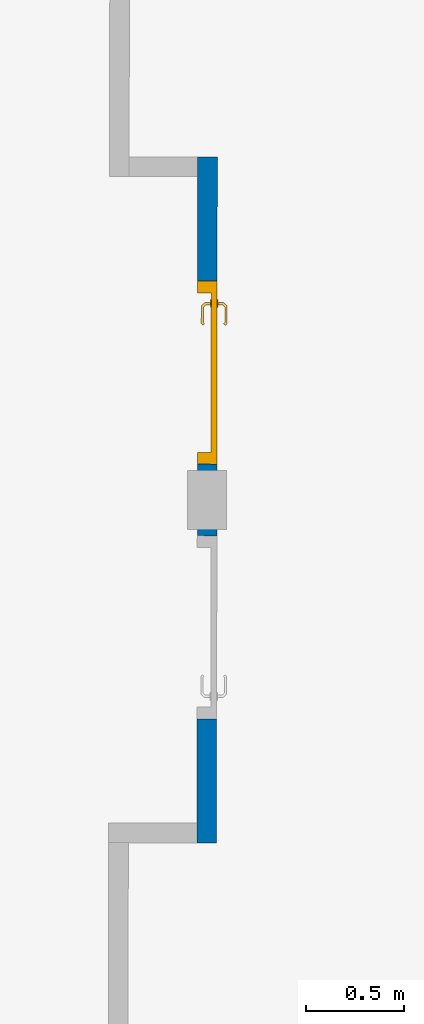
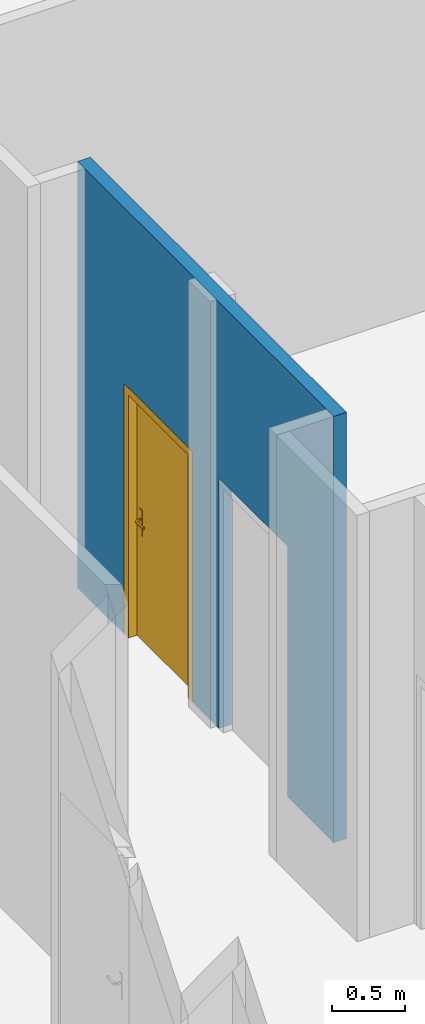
# One storey, part 80 of 101: 1 door, 1 wall, 2 openings.
"""IFC2X3 building model written with IfcOpenShell, lengths in metres."""

from ifc_helpers import new_model, entity, si_unit, converted_unit, derived_unit, direction, frame, frame_2d, origin, place, context, subcontext, project, spatial, rectangle, extrude, faceted_brep, source, transform, mapped, material, material_list, layer, layer_set, layer_usage, type_object, type_shapes, element, fill, save


model = new_model("IFC2X3")

# Units and contexts
model_context = context("Model", 3, precision=1e-05, world=origin(), true_north=direction((6.123233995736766e-17, 1.0)))
body_context = subcontext(model_context, "Body", "Model", "MODEL_VIEW")
ifc_project = project(units=[si_unit("LENGTHUNIT", "METRE"), si_unit("AREAUNIT", "SQUARE_METRE"), converted_unit("PLANEANGLEUNIT", "DEGREE", entity("IfcPlaneAngleMeasure", 0.017453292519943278), si_unit("PLANEANGLEUNIT", "RADIAN"), dimensions=[0, 0, 0, 0, 0, 0, 0]), derived_unit("THERMALTRANSMITTANCEUNIT", [(si_unit("MASSUNIT", "GRAM", prefix="KILO"), 1), (si_unit("THERMODYNAMICTEMPERATUREUNIT", "KELVIN"), -1), (si_unit("TIMEUNIT", "SECOND"), -3)])], contexts=[model_context])

# Site, building, storey
site_placement = place(None, frame((1253.6752467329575, 2072.143113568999, 91.49999999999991), z_axis=(0.0, 0.0, 1.0), x_axis=(0.7237211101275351, 0.6900925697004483, 0.0)))
site = spatial("IfcSite", under=ifc_project, at=site_placement, Name="Surface", CompositionType="ELEMENT")
building_placement = place(site_placement, origin())
building = spatial("IfcBuilding", under=site, at=building_placement, CompositionType="ELEMENT")
storey_placement = place(building_placement, origin())
storey = spatial("IfcBuildingStorey", under=building, at=storey_placement, Name="0- Rdc", CompositionType="ELEMENT", Elevation=-5.764692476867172e-13)

# Wall, openings, door
ifc_material_1 = material(Name="OMD_Béton blanc")
ifc_layer = layer(ifc_material_1, 0.1)
ifc_layer_set = layer_set([ifc_layer], Name="Mur de base:MUR 10")
ifc_layer_usage = layer_usage(ifc_layer_set, "AXIS2", "NEGATIVE", 0.05)
wall_type = type_object("IfcWallType", Name="Mur de base:MUR 10", PredefinedType="STANDARD", material=ifc_layer_set)
wall_placement = place(storey_placement, frame((186.27578160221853, -14.330634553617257, 0.0), z_axis=(0.0, 0.0, 1.0), x_axis=(0.6909838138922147, 0.7228702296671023, 0.0)))
wall = element("IfcWallStandardCase", 1, at=wall_placement, inside=storey, type_object=wall_type, material=ifc_layer_usage, Name="Mur de base:MUR 10", ObjectType="Mur de base:MUR 10", context=body_context, shape_type="SweptSolid", body=[
    extrude(rectangle(XDim=3.5000000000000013, YDim=0.10000000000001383, at=frame_2d((1.7500000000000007, -6.591949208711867e-17), x_axis=(-1.0, 0.0))), origin(), (0.0, 0.0, 1.0), 3.5499999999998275),
])
opening_1_placement = place(wall_placement, frame((2.8675000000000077, 0.04999999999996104, 0.0)))
opening_1 = element("IfcOpeningElement", 2, at=opening_1_placement, cuts=wall, Name="OMD_Porte 1V tunnel:80x204:1", ObjectType="Opening", context=body_context, shape_type="SweptSolid", body=[
    extrude(rectangle(XDim=2.0850000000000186, YDim=0.9349999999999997, at=frame_2d((1.0425000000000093, 0.46750000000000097), x_axis=(1.0, 0.0))), frame((0.0, 0.0, 0.0), z_axis=(0.0, -1.0, 0.0), x_axis=(0.0, 0.0, 1.0)), (0.0, 0.0, 1.0), 0.09999999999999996),
])
opening_2_placement = place(wall_placement, frame((1.5675000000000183, 0.04999999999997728, 0.0)))
element("IfcOpeningElement", 3, at=opening_2_placement, cuts=wall, Name="OMD_Porte 1V tunnel:80x204:1", ObjectType="Opening", context=body_context, shape_type="SweptSolid", body=[
    extrude(rectangle(XDim=2.0850000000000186, YDim=0.9349999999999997, at=frame_2d((1.0425000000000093, 0.46749999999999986), x_axis=(1.0, 0.0))), frame((0.0, 0.0, 0.0), z_axis=(0.0, -1.0, 0.0), x_axis=(0.0, 0.0, 1.0)), (0.0, 0.0, 1.0), 0.09999999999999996),
])
ifc_material_2 = material(Name="Porte - Poignée")
ifc_material_3 = material(Name="OMD_Peinture mur")
ifc_material_4 = material(Name="OMD_Bois")
ifc_material_list = material_list([ifc_material_2, ifc_material_3, ifc_material_4])
door_style = type_object("IfcDoorStyle", Name="OMD_Porte 1V tunnel:80x204", ConstructionType="NOTDEFINED", OperationType="NOTDEFINED", ParameterTakesPrecedence=False, Sizeable=False, material=ifc_material_list)
shared_shape = source(origin(), body_context, "Body", "Brep", [
    faceted_brep([(0.8220252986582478, 0.03500000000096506, 1.0077804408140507), (0.8179747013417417, 0.03500000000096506, 1.007780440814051), (0.8139999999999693, 0.03500000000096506, 1.00699999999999), (0.8139999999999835, 0.03500000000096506, 0.9930000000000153), (0.8179747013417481, 0.03500000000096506, 0.9922195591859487), (0.8220252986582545, 0.03500000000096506, 0.9922195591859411), (0.8260000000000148, 0.03500000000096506, 0.9929999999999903), (0.826000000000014, 0.03500000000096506, 1.006999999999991), (0.8139999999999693, 0.05748520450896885, 1.00699999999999), (0.8139999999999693, 0.05748520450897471, 0.9930000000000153), (0.8179747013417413, 0.059131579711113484, 1.007780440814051), (0.8220252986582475, 0.060809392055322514, 1.0077804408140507), (0.8058389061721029, 0.07699578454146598, 1.0077804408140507), (0.8041610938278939, 0.07294518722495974, 1.007780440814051), (0.7207931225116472, 0.07294518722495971, 1.0077804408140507), (0.7191153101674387, 0.07699578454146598, 1.0077804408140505), (0.7114510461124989, 0.06933152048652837, 1.0077804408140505), (0.714315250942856, 0.0664673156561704, 1.0077804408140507), (0.8260000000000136, 0.062455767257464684, 1.006999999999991), (0.8260000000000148, 0.062455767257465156, 0.9929999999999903), (0.8220252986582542, 0.06080939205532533, 0.9922195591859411), (0.8179747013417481, 0.05913157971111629, 0.9922195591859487), (0.8041610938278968, 0.07294518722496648, 0.9922195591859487), (0.8058389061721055, 0.07699578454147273, 0.9922195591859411), (0.7191153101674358, 0.07699578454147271, 0.9922195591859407), (0.7207931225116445, 0.07294518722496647, 0.9922195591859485), (0.7143152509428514, 0.06646731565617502, 0.9922195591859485), (0.7114510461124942, 0.06933152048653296, 0.9922195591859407), (0.8025147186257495, 0.06897048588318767, 1.00699999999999), (0.8025147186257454, 0.06897048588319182, 0.9930000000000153), (0.8074852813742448, 0.08097048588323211, 1.006999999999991), (0.8074852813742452, 0.08097048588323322, 0.9929999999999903), (0.7624771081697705, 0.06897048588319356, 1.0069999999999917), (0.7224394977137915, 0.06897048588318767, 1.0069999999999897), (0.7224394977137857, 0.0689704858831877, 0.9930000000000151), (0.7624771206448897, 0.06897048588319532, 0.9930000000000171), (0.7624771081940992, 0.07512492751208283, 1.0078781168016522), (0.7573994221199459, 0.08097048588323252, 1.0069999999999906), (0.7174689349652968, 0.08097048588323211, 1.0069999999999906), (0.7675547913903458, 0.08097048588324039, 0.9929999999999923), (0.7174689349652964, 0.08097048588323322, 0.99299999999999), (0.762477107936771, 0.07512492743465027, 0.9921218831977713), (0.7086405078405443, 0.07214205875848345, 1.0069999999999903), (0.7086405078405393, 0.07214205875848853, 0.9929999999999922), (0.7171257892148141, 0.06365677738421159, 0.9930000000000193), (0.71712578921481, 0.06365677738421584, 1.0069999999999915)], [[[0, 1, 2, 3, 4, 5, 6, 7]], [[8, 9, 3, 2]], [[1, 10, 8, 2]], [[1, 0, 11, 12, 13, 10]], [[14, 15, 16, 17]], [[7, 18, 11, 0]], [[18, 7, 6, 19]], [[6, 5, 20, 19]], [[5, 4, 21, 22, 23, 20]], [[24, 25, 26, 27]], [[4, 3, 9, 21]], [[28, 29, 9, 8]], [[8, 10, 13, 28]], [[18, 30, 12, 11]], [[31, 30, 18, 19]], [[19, 20, 23, 31]], [[21, 9, 29, 22]], [[29, 28, 32, 33, 34, 35]], [[36, 32, 13]], [[37, 38, 15]], [[37, 12, 30]], [[36, 12, 37]], [[14, 32, 36]], [[36, 15, 14]], [[28, 13, 32]], [[32, 14, 33]], [[12, 36, 13]], [[15, 36, 37]], [[30, 31, 39, 40, 38, 37]], [[23, 41, 39]], [[24, 39, 41]], [[39, 31, 23]], [[39, 24, 40]], [[22, 35, 41]], [[41, 23, 22]], [[41, 35, 25]], [[35, 22, 29]], [[34, 25, 35]], [[24, 41, 25]], [[17, 16, 42, 43, 27, 26, 44, 45]], [[45, 44, 34, 33]], [[33, 14, 17, 45]], [[15, 38, 42, 16]], [[43, 42, 38, 40]], [[24, 27, 43, 40]], [[34, 44, 26, 25]]]),
    faceted_brep([(0.817974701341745, -0.004999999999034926, 1.007780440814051), (0.8220252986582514, -0.004999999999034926, 1.0077804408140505), (0.8260000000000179, -0.004999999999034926, 1.0069999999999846), (0.8260000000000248, -0.004999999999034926, 0.9929999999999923), (0.8220252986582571, -0.004999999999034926, 0.992219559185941), (0.817974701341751, -0.004999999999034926, 0.9922195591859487), (0.8139999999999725, -0.004999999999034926, 0.9930000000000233), (0.8139999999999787, -0.004999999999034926, 1.006999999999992), (0.8220252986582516, -0.03100457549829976, 1.0077804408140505), (0.8260000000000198, -0.03265095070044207, 1.0069999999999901), (0.8179747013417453, -0.02932676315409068, 1.007780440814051), (0.8042986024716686, -0.04300286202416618, 1.007780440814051), (0.8059764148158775, -0.04705345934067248, 1.0077804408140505), (0.7191424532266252, -0.04705345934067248, 1.0077804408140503), (0.7208202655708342, -0.04300286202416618, 1.0077804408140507), (0.714342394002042, -0.03652499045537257, 1.0077804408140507), (0.7114781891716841, -0.039389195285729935, 1.0077804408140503), (0.813999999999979, -0.02768038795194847, 1.006999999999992), (0.8139999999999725, -0.02768038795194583, 0.9930000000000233), (0.817974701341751, -0.029326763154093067, 0.9922195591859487), (0.8220252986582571, -0.031004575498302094, 0.992219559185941), (0.8059764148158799, -0.0470534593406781, 0.992219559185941), (0.804298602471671, -0.04300286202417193, 0.9922195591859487), (0.7208202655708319, -0.04300286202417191, 0.9922195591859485), (0.7191424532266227, -0.047053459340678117, 0.9922195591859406), (0.71147818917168, -0.03938919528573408, 0.9922195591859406), (0.7143423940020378, -0.036524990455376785, 0.9922195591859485), (0.8260000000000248, -0.032650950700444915, 0.9929999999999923), (0.807622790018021, -0.051028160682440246, 1.0069999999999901), (0.8026522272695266, -0.03902816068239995, 1.006999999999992), (0.8026522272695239, -0.03902816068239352, 0.9930000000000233), (0.8076227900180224, -0.05102816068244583, 0.9929999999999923), (0.762559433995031, -0.0451828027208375, 1.0078781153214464), (0.7676923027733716, -0.05102816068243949, 1.0069999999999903), (0.7174960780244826, -0.05102816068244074, 1.00699999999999), (0.7625594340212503, -0.03902816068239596, 1.0069999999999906), (0.7224666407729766, -0.039028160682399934, 1.0069999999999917), (0.7625594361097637, -0.03902816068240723, 0.9930000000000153), (0.7224666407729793, -0.03902816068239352, 0.9930000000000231), (0.7625594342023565, -0.04518280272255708, 0.9921218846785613), (0.7574265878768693, -0.051028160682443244, 0.9929999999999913), (0.7174960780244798, -0.05102816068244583, 0.9929999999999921), (0.7171529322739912, -0.033714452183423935, 0.9930000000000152), (0.7086676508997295, -0.04219973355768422, 0.9929999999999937), (0.7086676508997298, -0.04219973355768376, 1.0069999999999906), (0.717152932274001, -0.03371445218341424, 1.0069999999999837)], [[[0, 1, 2, 3, 4, 5, 6, 7]], [[2, 1, 8, 9]], [[1, 0, 10, 11, 12, 8]], [[13, 14, 15, 16]], [[0, 7, 17, 10]], [[18, 17, 7, 6]], [[5, 19, 18, 6]], [[5, 4, 20, 21, 22, 19]], [[23, 24, 25, 26]], [[3, 27, 20, 4]], [[9, 27, 3, 2]], [[9, 8, 12, 28]], [[10, 17, 29, 11]], [[30, 29, 17, 18]], [[18, 19, 22, 30]], [[20, 27, 31, 21]], [[28, 31, 27, 9]], [[12, 32, 33]], [[13, 33, 32]], [[33, 28, 12]], [[33, 13, 34]], [[11, 35, 32]], [[32, 12, 11]], [[32, 35, 14]], [[35, 11, 29]], [[36, 14, 35]], [[13, 32, 14]], [[29, 30, 37, 38, 36, 35]], [[39, 37, 22]], [[40, 41, 24]], [[40, 21, 31]], [[39, 21, 40]], [[23, 37, 39]], [[39, 24, 23]], [[30, 22, 37]], [[37, 23, 38]], [[21, 39, 22]], [[24, 39, 40]], [[31, 28, 33, 34, 41, 40]], [[42, 26, 25, 43, 44, 16, 15, 45]], [[13, 16, 44, 34]], [[36, 45, 15, 14]], [[42, 45, 36, 38]], [[38, 23, 26, 42]], [[24, 41, 43, 25]], [[44, 43, 41, 34]]]),
    faceted_brep([(0.8199999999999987, 0.030000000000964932, 0.8646410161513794), (0.8303527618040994, 0.03000000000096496, 0.866003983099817), (0.8399999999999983, 0.030000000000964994, 0.8700000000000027), (0.8399999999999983, 0.030000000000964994, 1.0800000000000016), (0.8303527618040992, 0.03000000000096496, 1.0839960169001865), (0.8199999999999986, 0.030000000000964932, 1.0853589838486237), (0.809647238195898, 0.030000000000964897, 1.0839960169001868), (0.7999999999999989, 0.030000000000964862, 1.0800000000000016), (0.7999999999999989, 0.030000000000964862, 0.8700000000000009), (0.8096472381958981, 0.030000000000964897, 0.8660039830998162), (0.8199999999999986, 0.03500000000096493, 1.0853589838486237), (0.8303527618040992, 0.03500000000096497, 1.0839960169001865), (0.8399999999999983, 0.035000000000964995, 1.0800000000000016), (0.8399999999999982, 0.035000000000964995, 0.8700000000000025), (0.8303527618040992, 0.03500000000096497, 0.866003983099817), (0.8199999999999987, 0.03500000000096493, 0.8646410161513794), (0.8096472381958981, 0.0350000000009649, 0.8660039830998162), (0.7999999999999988, 0.03500000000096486, 0.8700000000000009), (0.7999999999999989, 0.03500000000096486, 1.0800000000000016), (0.809647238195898, 0.0350000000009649, 1.0839960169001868)], [[[0, 1, 2, 3, 4, 5, 6, 7, 8, 9]], [[10, 11, 12, 13, 14, 15, 16, 17, 18, 19]], [[6, 19, 18, 7]], [[5, 10, 19, 6]], [[4, 11, 10, 5]], [[4, 3, 12, 11]], [[12, 3, 2, 13]], [[1, 14, 13, 2]], [[0, 15, 14, 1]], [[9, 16, 15, 0]], [[9, 8, 17, 16]], [[17, 8, 7, 18]]]),
    faceted_brep([(0.819999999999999, -0.004999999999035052, 0.8646410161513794), (0.8303527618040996, -0.0049999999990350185, 0.8660039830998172), (0.8399999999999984, -0.004999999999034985, 0.8700000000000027), (0.8399999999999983, -0.004999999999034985, 1.0800000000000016), (0.8303527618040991, -0.0049999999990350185, 1.0839960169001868), (0.8199999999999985, -0.004999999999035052, 1.0853589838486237), (0.8096472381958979, -0.004999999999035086, 1.0839960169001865), (0.7999999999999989, -0.004999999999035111, 1.0800000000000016), (0.7999999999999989, -0.004999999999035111, 0.8700000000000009), (0.8096472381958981, -0.004999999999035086, 0.8660039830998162), (0.8399999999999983, 0.0, 1.0800000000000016), (0.8399999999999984, 0.0, 0.8700000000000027), (0.8303527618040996, 0.0, 0.8660039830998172), (0.819999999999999, 0.0, 0.8646410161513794), (0.8096472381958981, 0.0, 0.8660039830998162), (0.7999999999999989, 0.0, 0.8700000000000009), (0.7999999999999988, 0.0, 1.0800000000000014), (0.8096472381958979, 0.0, 1.0839960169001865), (0.8199999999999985, 0.0, 1.0853589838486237), (0.8303527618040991, 0.0, 1.0839960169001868)], [[[0, 1, 2, 3, 4, 5, 6, 7, 8, 9]], [[10, 11, 12, 13, 14, 15, 16, 17, 18, 19]], [[1, 12, 11, 2]], [[0, 13, 12, 1]], [[9, 14, 13, 0]], [[9, 8, 15, 14]], [[15, 8, 7, 16]], [[6, 17, 16, 7]], [[5, 18, 17, 6]], [[4, 19, 18, 5]], [[4, 3, 10, 19]], [[10, 3, 2, 11]]]),
    faceted_brep([(0.89, 0.030000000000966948, 0.0), (0.89, 0.0, 0.0), (0.04500000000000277, 0.0, 0.0), (0.04500000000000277, 0.030000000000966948, 0.0), (0.89, 0.030000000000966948, 2.04), (0.89, 0.0, 2.04), (0.04500000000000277, 0.0, 2.04), (0.04500000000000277, 0.030000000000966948, 2.04)], [[[0, 1, 2, 3]], [[4, 5, 1, 0]], [[5, 6, 2, 1]], [[6, 7, 3, 2]], [[7, 4, 0, 3]], [[4, 7, 6, 5]]]),
    faceted_brep([(0.9350000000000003, 0.0, 0.0), (0.89, 0.0, 0.0), (0.8900000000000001, 0.03000000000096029, 0.0), (0.8750000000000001, 0.030000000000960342, 0.0), (0.8750000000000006, 0.10000000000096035, 0.0), (0.9350000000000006, 0.10000000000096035, 0.0), (0.9350000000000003, 0.0, 2.085), (0.0, 0.0, 2.085), (0.0, 0.0, 0.0), (0.04500000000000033, 0.0, 0.0), (0.04500000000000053, 0.0, 2.04), (0.8899999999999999, 0.0, 2.0399999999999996), (0.89, 0.030000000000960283, 2.0399999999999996), (0.0450000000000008, 0.03000000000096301, 2.0399999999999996), (0.0450000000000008, 0.030000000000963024, 0.0), (0.060000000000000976, 0.030000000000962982, 0.0), (0.060000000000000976, 0.03000000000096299, 2.0249999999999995), (0.8750000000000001, 0.03000000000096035, 2.025), (0.8750000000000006, 0.10000000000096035, 2.0250000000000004), (0.060000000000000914, 0.10000000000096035, 2.025), (0.060000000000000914, 0.10000000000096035, 0.0), (0.0, 0.10000000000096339, 0.0), (0.0, 0.10000000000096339, 2.085), (0.9350000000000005, 0.10000000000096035, 2.085)], [[[0, 1, 2, 3, 4, 5]], [[1, 0, 6, 7, 8, 9, 10, 11]], [[2, 1, 11, 12]], [[3, 2, 12, 13, 14, 15, 16, 17]], [[4, 3, 17, 18]], [[5, 4, 18, 19, 20, 21, 22, 23]], [[0, 5, 23, 6]], [[7, 22, 21, 8]], [[8, 21, 20, 15, 14, 9]], [[13, 10, 9, 14]], [[19, 16, 15, 20]], [[12, 11, 10, 13]], [[18, 17, 16, 19]], [[6, 23, 22, 7]]]),
])
type_shapes(door_style, [shared_shape])
door_placement = place(opening_1_placement, frame((-0.9350000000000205, -0.09999999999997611, 0.0)))
door = element("IfcDoor", 4, at=door_placement, inside=storey, type_object=door_style, material=ifc_material_list, Name="OMD_Porte 1V tunnel:80x204", ObjectType="OMD_Porte 1V tunnel:80x204", OverallHeight=2.0850000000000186, OverallWidth=0.9350000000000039, context=body_context, shape_type="MappedRepresentation", body=[
    mapped(shared_shape, transform((0.0, 0.0, 0.0), scale=1.0)),
])
fill(opening_1, door)

save(model, "model.ifc")
